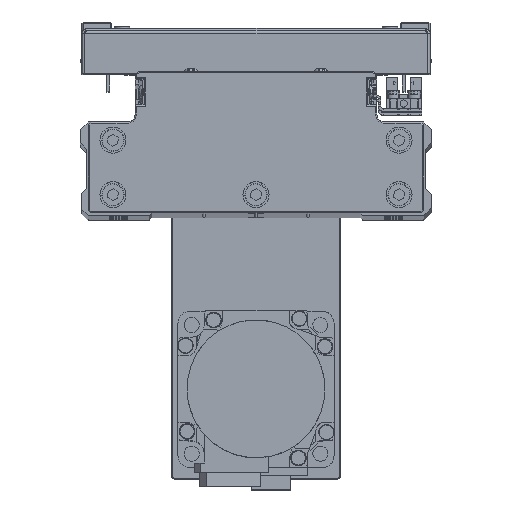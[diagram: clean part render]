
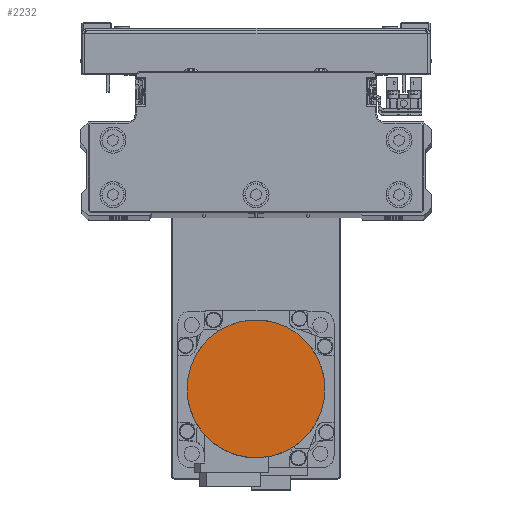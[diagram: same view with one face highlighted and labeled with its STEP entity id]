
A CAD part, top view. The second image highlights one B-rep face of the part: STEP entity #2232.
In plain terms, the highlighted planar face has unit normal (0, 0, 1) as drawn and (0, 0, -1) by its records, which use the part's own axes.
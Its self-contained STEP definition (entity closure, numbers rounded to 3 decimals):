
#26 = CARTESIAN_POINT ( 'NONE',  ( 22.998, -13.28, -109.7 ) ) ;
#1850 = CARTESIAN_POINT ( 'NONE',  ( 23.819, 11.744, -109.7 ) ) ;
#2066 = CARTESIAN_POINT ( 'NONE',  ( -3.469, 26.329, -109.7 ) ) ;
#2232 = ADVANCED_FACE ( 'NONE', ( #11817 ), #25495, .F. ) ;
#2287 = CARTESIAN_POINT ( 'NONE',  ( -26.329, 3.469, -109.7 ) ) ;
#3154 = CARTESIAN_POINT ( 'NONE',  ( -13.28, -22.998, -109.7 ) ) ;
#3364 = CARTESIAN_POINT ( 'NONE',  ( 17.512, -19.965, -109.7 ) ) ;
#5199 = CARTESIAN_POINT ( 'NONE',  ( 26.329, 3.469, -109.7 ) ) ;
#5411 = CARTESIAN_POINT ( 'NONE',  ( 3.469, 26.329, -109.7 ) ) ;
#5624 = CARTESIAN_POINT ( 'NONE',  ( -23.819, 11.744, -109.7 ) ) ;
#6512 = CARTESIAN_POINT ( 'NONE',  ( -19.965, -17.512, -109.7 ) ) ;
#6731 = CARTESIAN_POINT ( 'NONE',  ( 11.744, -23.819, -109.7 ) ) ;
#8451 = DIRECTION ( 'NONE',  ( 0., 0., 1. ) ) ;
#8782 = CARTESIAN_POINT ( 'NONE',  ( 11.744, 23.819, -109.7 ) ) ;
#8988 = CARTESIAN_POINT ( 'NONE',  ( -19.965, 17.512, -109.7 ) ) ;
#9861 = CARTESIAN_POINT ( 'NONE',  ( -23.819, -11.744, -109.7 ) ) ;
#10096 = CARTESIAN_POINT ( 'NONE',  ( 3.469, -26.329, -109.7 ) ) ;
#10311 = CARTESIAN_POINT ( 'NONE',  ( 26.329, -3.469, -109.7 ) ) ;
#11817 = FACE_OUTER_BOUND ( 'NONE', #18425, .T. ) ;
#12131 = CARTESIAN_POINT ( 'NONE',  ( 17.512, 19.965, -109.7 ) ) ;
#12359 = CARTESIAN_POINT ( 'NONE',  ( -13.28, 22.998, -109.7 ) ) ;
#13044 = EDGE_CURVE ( 'NONE', #29570, #30122, #26627, .T. ) ;
#13107 = EDGE_CURVE ( 'NONE', #30122, #29570, #32511, .T. ) ;
#13223 = CARTESIAN_POINT ( 'NONE',  ( -26.329, -3.469, -109.7 ) ) ;
#13438 = CARTESIAN_POINT ( 'NONE',  ( -3.469, -26.329, -109.7 ) ) ;
#13674 = CARTESIAN_POINT ( 'NONE',  ( 23.819, -11.744, -109.7 ) ) ;
#15486 = CARTESIAN_POINT ( 'NONE',  ( 22.998, 13.28, -109.7 ) ) ;
#15710 = CARTESIAN_POINT ( 'NONE',  ( -6.871, 25.652, -109.7 ) ) ;
#15932 = CARTESIAN_POINT ( 'NONE',  ( -26.5, 1.734, -109.7 ) ) ;
#16812 = CARTESIAN_POINT ( 'NONE',  ( -11.744, -23.819, -109.7 ) ) ;
#17028 = CARTESIAN_POINT ( 'NONE',  ( 19.965, -17.512, -109.7 ) ) ;
#18425 = EDGE_LOOP ( 'NONE', ( #40877, #29473 ) ) ;
#18869 = CARTESIAN_POINT ( 'NONE',  ( 25.652, 6.871, -109.7 ) ) ;
#19080 = CARTESIAN_POINT ( 'NONE',  ( 1.734, 26.5, -109.7 ) ) ;
#19305 = CARTESIAN_POINT ( 'NONE',  ( -25.147, 8.539, -109.7 ) ) ;
#20183 = CARTESIAN_POINT ( 'NONE',  ( -17.512, -19.965, -109.7 ) ) ;
#20395 = CARTESIAN_POINT ( 'NONE',  ( 13.28, -22.998, -109.7 ) ) ;
#22120 = DIRECTION ( 'NONE',  ( 1., 0., 0. ) ) ;
#22224 = CARTESIAN_POINT ( 'NONE',  ( 26.5, 0., -109.7 ) ) ;
#22447 = CARTESIAN_POINT ( 'NONE',  ( 8.539, 25.147, -109.7 ) ) ;
#22650 = CARTESIAN_POINT ( 'NONE',  ( -21.07, 16.165, -109.7 ) ) ;
#23540 = CARTESIAN_POINT ( 'NONE',  ( -22.998, -13.28, -109.7 ) ) ;
#23764 = CARTESIAN_POINT ( 'NONE',  ( 6.871, -25.652, -109.7 ) ) ;
#23980 = CARTESIAN_POINT ( 'NONE',  ( 26.5, -1.734, -109.7 ) ) ;
#25495 = PLANE ( 'NONE',  #37130 ) ;
#25816 = CARTESIAN_POINT ( 'NONE',  ( 16.165, 21.07, -109.7 ) ) ;
#26041 = CARTESIAN_POINT ( 'NONE',  ( -16.165, 21.07, -109.7 ) ) ;
#26569 = CARTESIAN_POINT ( 'NONE',  ( -26.5, 0., -109.7 ) ) ;
#26627 = B_SPLINE_CURVE_WITH_KNOTS ( 'NONE', 3,
 ( #22224, #35909, #5199, #18869, #32545, #1850, #15486, #29179, #42863, #12131, #25816, #39483, #8782, #22447, #36126, #5411, #19080, #32757, #2066, #15710, #29414, #43095, #12359, #26041, #39700, #8988, #22650, #36332, #5624, #19305, #32987, #2287, #15932, #29632 ),
 .UNSPECIFIED., .F., .F.,
 ( 4, 2, 2, 2, 2, 2, 2, 2, 2, 2, 2, 2, 2, 2, 2, 2, 4 ),
 ( 0., 0.062, 0.125, 0.187, 0.25, 0.312, 0.375, 0.437, 0.5, 0.562, 0.625, 0.687, 0.75, 0.813, 0.875, 0.938, 1. ),
 .UNSPECIFIED. ) ;
#26913 = CARTESIAN_POINT ( 'NONE',  ( -25.652, -6.871, -109.7 ) ) ;
#27138 = CARTESIAN_POINT ( 'NONE',  ( -1.734, -26.5, -109.7 ) ) ;
#27362 = CARTESIAN_POINT ( 'NONE',  ( 25.147, -8.539, -109.7 ) ) ;
#27586 = CARTESIAN_POINT ( 'NONE',  ( 26.5, 0., -109.7 ) ) ;
#29179 = CARTESIAN_POINT ( 'NONE',  ( 21.07, 16.165, -109.7 ) ) ;
#29414 = CARTESIAN_POINT ( 'NONE',  ( -8.539, 25.147, -109.7 ) ) ;
#29473 = ORIENTED_EDGE ( 'NONE', *, *, #13107, .F. ) ;
#29570 = VERTEX_POINT ( 'NONE', #27586 ) ;
#29632 = CARTESIAN_POINT ( 'NONE',  ( -26.5, 0., -109.7 ) ) ;
#30122 = VERTEX_POINT ( 'NONE', #26569 ) ;
#30287 = CARTESIAN_POINT ( 'NONE',  ( -26.5, 0., -109.7 ) ) ;
#30498 = CARTESIAN_POINT ( 'NONE',  ( -8.539, -25.147, -109.7 ) ) ;
#30722 = CARTESIAN_POINT ( 'NONE',  ( 21.07, -16.165, -109.7 ) ) ;
#32511 = B_SPLINE_CURVE_WITH_KNOTS ( 'NONE', 3,
 ( #30287, #43967, #13223, #26913, #40577, #9861, #23540, #37213, #6512, #20183, #33864, #3154, #16812, #30498, #44177, #13438, #27138, #40803, #10096, #23764, #37436, #6731, #20395, #34074, #3364, #17028, #30722, #26, #13674, #27362, #41023, #10311, #23980, #37643 ),
 .UNSPECIFIED., .F., .F.,
 ( 4, 2, 2, 2, 2, 2, 2, 2, 2, 2, 2, 2, 2, 2, 2, 2, 4 ),
 ( 0., 0.063, 0.125, 0.188, 0.25, 0.312, 0.375, 0.437, 0.5, 0.562, 0.625, 0.687, 0.75, 0.813, 0.875, 0.938, 1. ),
 .UNSPECIFIED. ) ;
#32545 = CARTESIAN_POINT ( 'NONE',  ( 25.147, 8.539, -109.7 ) ) ;
#32757 = CARTESIAN_POINT ( 'NONE',  ( -1.734, 26.5, -109.7 ) ) ;
#32987 = CARTESIAN_POINT ( 'NONE',  ( -25.652, 6.871, -109.7 ) ) ;
#33864 = CARTESIAN_POINT ( 'NONE',  ( -16.165, -21.07, -109.7 ) ) ;
#34074 = CARTESIAN_POINT ( 'NONE',  ( 16.165, -21.07, -109.7 ) ) ;
#35909 = CARTESIAN_POINT ( 'NONE',  ( 26.5, 1.734, -109.7 ) ) ;
#36126 = CARTESIAN_POINT ( 'NONE',  ( 6.871, 25.652, -109.7 ) ) ;
#36332 = CARTESIAN_POINT ( 'NONE',  ( -22.998, 13.28, -109.7 ) ) ;
#37130 = AXIS2_PLACEMENT_3D ( 'NONE', #39149, #8451, #22120 ) ;
#37213 = CARTESIAN_POINT ( 'NONE',  ( -21.07, -16.165, -109.7 ) ) ;
#37436 = CARTESIAN_POINT ( 'NONE',  ( 8.539, -25.147, -109.7 ) ) ;
#37643 = CARTESIAN_POINT ( 'NONE',  ( 26.5, 0., -109.7 ) ) ;
#39149 = CARTESIAN_POINT ( 'NONE',  ( 0., 0., -109.7 ) ) ;
#39483 = CARTESIAN_POINT ( 'NONE',  ( 13.28, 22.998, -109.7 ) ) ;
#39700 = CARTESIAN_POINT ( 'NONE',  ( -17.512, 19.965, -109.7 ) ) ;
#40577 = CARTESIAN_POINT ( 'NONE',  ( -25.147, -8.539, -109.7 ) ) ;
#40803 = CARTESIAN_POINT ( 'NONE',  ( 1.734, -26.5, -109.7 ) ) ;
#40877 = ORIENTED_EDGE ( 'NONE', *, *, #13044, .F. ) ;
#41023 = CARTESIAN_POINT ( 'NONE',  ( 25.652, -6.871, -109.7 ) ) ;
#42863 = CARTESIAN_POINT ( 'NONE',  ( 19.965, 17.512, -109.7 ) ) ;
#43095 = CARTESIAN_POINT ( 'NONE',  ( -11.744, 23.819, -109.7 ) ) ;
#43967 = CARTESIAN_POINT ( 'NONE',  ( -26.5, -1.734, -109.7 ) ) ;
#44177 = CARTESIAN_POINT ( 'NONE',  ( -6.871, -25.652, -109.7 ) ) ;
